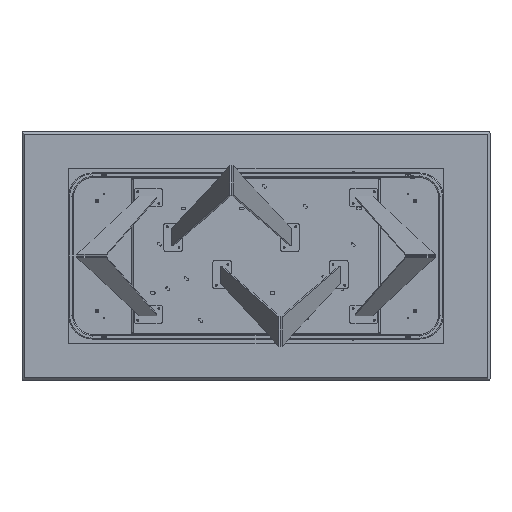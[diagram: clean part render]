
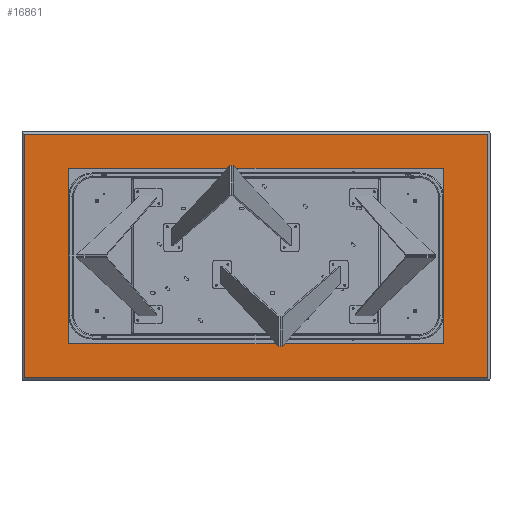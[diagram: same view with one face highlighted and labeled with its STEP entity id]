
A CAD part, front view. The second image highlights one B-rep face of the part: STEP entity #16861.
In plain terms, the highlighted planar face has unit normal (0, -1, 0).
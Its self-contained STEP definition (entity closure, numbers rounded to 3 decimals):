
#77 = ORIENTED_EDGE ( 'NONE', *, *, #21493, .F. ) ;
#211 = CARTESIAN_POINT ( 'NONE',  ( -990., 0., 520. ) ) ;
#218 = CARTESIAN_POINT ( 'NONE',  ( 680., 0., 237.5 ) ) ;
#228 = AXIS2_PLACEMENT_3D ( 'NONE', #14906, #22423, #12786 ) ;
#386 = EDGE_CURVE ( 'NONE', #17537, #6944, #11609, .T. ) ;
#611 = FACE_BOUND ( 'NONE', #22851, .T. ) ;
#633 = CIRCLE ( 'NONE', #228, 2.5 ) ;
#788 = VERTEX_POINT ( 'NONE', #7950 ) ;
#875 = LINE ( 'NONE', #14186, #2579 ) ;
#911 = DIRECTION ( 'NONE',  ( 0., 0., -1. ) ) ;
#914 = CARTESIAN_POINT ( 'NONE',  ( 680., 0., -235. ) ) ;
#1272 = EDGE_CURVE ( 'NONE', #788, #15801, #18597, .T. ) ;
#1342 = CARTESIAN_POINT ( 'NONE',  ( 680., 0., 235. ) ) ;
#2274 = DIRECTION ( 'NONE',  ( 0., -1., 0. ) ) ;
#2424 = CARTESIAN_POINT ( 'NONE',  ( -680., 0., -237.5 ) ) ;
#2579 = VECTOR ( 'NONE', #18003, 1000. ) ;
#3076 = ORIENTED_EDGE ( 'NONE', *, *, #9154, .F. ) ;
#3166 = VERTEX_POINT ( 'NONE', #21472 ) ;
#3354 = VECTOR ( 'NONE', #16453, 1000. ) ;
#3395 = ORIENTED_EDGE ( 'NONE', *, *, #5428, .T. ) ;
#3600 = CARTESIAN_POINT ( 'NONE',  ( -680., 0., 237.5 ) ) ;
#3858 = ORIENTED_EDGE ( 'NONE', *, *, #23201, .F. ) ;
#4009 = EDGE_LOOP ( 'NONE', ( #6497, #13950 ) ) ;
#4050 = ORIENTED_EDGE ( 'NONE', *, *, #1272, .F. ) ;
#4179 = VERTEX_POINT ( 'NONE', #218 ) ;
#4504 = ORIENTED_EDGE ( 'NONE', *, *, #19490, .F. ) ;
#4558 = CARTESIAN_POINT ( 'NONE',  ( 680., 0., 235. ) ) ;
#4736 = DIRECTION ( 'NONE',  ( 0., 0., -1. ) ) ;
#5346 = LINE ( 'NONE', #18430, #3354 ) ;
#5428 = EDGE_CURVE ( 'NONE', #6944, #5477, #5346, .T. ) ;
#5477 = VERTEX_POINT ( 'NONE', #17072 ) ;
#5919 = FACE_BOUND ( 'NONE', #15750, .T. ) ;
#6208 = CARTESIAN_POINT ( 'NONE',  ( -680., 0., -235. ) ) ;
#6271 = CIRCLE ( 'NONE', #14157, 2.5 ) ;
#6497 = ORIENTED_EDGE ( 'NONE', *, *, #19813, .F. ) ;
#6944 = VERTEX_POINT ( 'NONE', #211 ) ;
#7528 = AXIS2_PLACEMENT_3D ( 'NONE', #15653, #15780, #15417 ) ;
#7719 = ORIENTED_EDGE ( 'NONE', *, *, #18179, .T. ) ;
#7950 = CARTESIAN_POINT ( 'NONE',  ( -680., 0., -232.5 ) ) ;
#8104 = FACE_OUTER_BOUND ( 'NONE', #13244, .T. ) ;
#8845 = AXIS2_PLACEMENT_3D ( 'NONE', #12638, #18453, #10791 ) ;
#9154 = EDGE_CURVE ( 'NONE', #20914, #12383, #6271, .T. ) ;
#9319 = VERTEX_POINT ( 'NONE', #3600 ) ;
#9564 = DIRECTION ( 'NONE',  ( 0., -1., 0. ) ) ;
#9717 = PLANE ( 'NONE',  #7528 ) ;
#10084 = FACE_BOUND ( 'NONE', #4009, .T. ) ;
#10333 = DIRECTION ( 'NONE',  ( 0., 0., -1. ) ) ;
#10489 = VERTEX_POINT ( 'NONE', #18191 ) ;
#10791 = DIRECTION ( 'NONE',  ( 0., 0., -1. ) ) ;
#10898 = ORIENTED_EDGE ( 'NONE', *, *, #18414, .F. ) ;
#11048 = CARTESIAN_POINT ( 'NONE',  ( -680., 0., 232.5 ) ) ;
#11429 = DIRECTION ( 'NONE',  ( 0., 0., -1. ) ) ;
#11609 = LINE ( 'NONE', #17425, #20374 ) ;
#11823 = DIRECTION ( 'NONE',  ( 0., -1., 0. ) ) ;
#12383 = VERTEX_POINT ( 'NONE', #23459 ) ;
#12638 = CARTESIAN_POINT ( 'NONE',  ( -680., 0., -235. ) ) ;
#12657 = DIRECTION ( 'NONE',  ( 0., -1., 0. ) ) ;
#12707 = DIRECTION ( 'NONE',  ( 1., 0., 0. ) ) ;
#12786 = DIRECTION ( 'NONE',  ( 0., 0., -1. ) ) ;
#13091 = AXIS2_PLACEMENT_3D ( 'NONE', #22287, #18980, #11429 ) ;
#13221 = DIRECTION ( 'NONE',  ( -1., 0., 0. ) ) ;
#13244 = EDGE_LOOP ( 'NONE', ( #3395, #7719, #22227, #21794 ) ) ;
#13448 = AXIS2_PLACEMENT_3D ( 'NONE', #20311, #9564, #23273 ) ;
#13721 = CARTESIAN_POINT ( 'NONE',  ( 680., 0., -232.5 ) ) ;
#13836 = AXIS2_PLACEMENT_3D ( 'NONE', #1342, #12657, #23774 ) ;
#13950 = ORIENTED_EDGE ( 'NONE', *, *, #17205, .F. ) ;
#14157 = AXIS2_PLACEMENT_3D ( 'NONE', #914, #15957, #4736 ) ;
#14186 = CARTESIAN_POINT ( 'NONE',  ( 990., 0., 0. ) ) ;
#14703 = LINE ( 'NONE', #21987, #24055 ) ;
#14906 = CARTESIAN_POINT ( 'NONE',  ( 680., 0., -235. ) ) ;
#15065 = AXIS2_PLACEMENT_3D ( 'NONE', #6208, #2274, #911 ) ;
#15417 = DIRECTION ( 'NONE',  ( 0., 0., 1. ) ) ;
#15653 = CARTESIAN_POINT ( 'NONE',  ( 0., 0., 0. ) ) ;
#15667 = EDGE_LOOP ( 'NONE', ( #10898, #4504 ) ) ;
#15743 = VERTEX_POINT ( 'NONE', #11048 ) ;
#15750 = EDGE_LOOP ( 'NONE', ( #3858, #3076 ) ) ;
#15780 = DIRECTION ( 'NONE',  ( 0., 1., 0. ) ) ;
#15801 = VERTEX_POINT ( 'NONE', #2424 ) ;
#15957 = DIRECTION ( 'NONE',  ( 0., -1., 0. ) ) ;
#16453 = DIRECTION ( 'NONE',  ( 0., 0., -1. ) ) ;
#16861 = ADVANCED_FACE ( 'NONE', ( #5919, #611, #10084, #23050, #8104 ), #9717, .F. ) ;
#17046 = AXIS2_PLACEMENT_3D ( 'NONE', #4558, #11823, #10333 ) ;
#17072 = CARTESIAN_POINT ( 'NONE',  ( -990., 0., -520. ) ) ;
#17205 = EDGE_CURVE ( 'NONE', #9319, #15743, #22856, .T. ) ;
#17425 = CARTESIAN_POINT ( 'NONE',  ( 0., 0., 520. ) ) ;
#17537 = VERTEX_POINT ( 'NONE', #21781 ) ;
#18003 = DIRECTION ( 'NONE',  ( 0., 0., 1. ) ) ;
#18179 = EDGE_CURVE ( 'NONE', #5477, #3166, #14703, .T. ) ;
#18191 = CARTESIAN_POINT ( 'NONE',  ( 680., 0., 232.5 ) ) ;
#18414 = EDGE_CURVE ( 'NONE', #10489, #4179, #19349, .T. ) ;
#18430 = CARTESIAN_POINT ( 'NONE',  ( -990., 0., 0. ) ) ;
#18453 = DIRECTION ( 'NONE',  ( 0., -1., 0. ) ) ;
#18597 = CIRCLE ( 'NONE', #15065, 2.5 ) ;
#18980 = DIRECTION ( 'NONE',  ( 0., -1., 0. ) ) ;
#19349 = CIRCLE ( 'NONE', #13836, 2.5 ) ;
#19490 = EDGE_CURVE ( 'NONE', #4179, #10489, #19809, .T. ) ;
#19809 = CIRCLE ( 'NONE', #17046, 2.5 ) ;
#19813 = EDGE_CURVE ( 'NONE', #15743, #9319, #20588, .T. ) ;
#20311 = CARTESIAN_POINT ( 'NONE',  ( -680., 0., 235. ) ) ;
#20374 = VECTOR ( 'NONE', #13221, 1000. ) ;
#20588 = CIRCLE ( 'NONE', #13091, 2.5 ) ;
#20914 = VERTEX_POINT ( 'NONE', #13721 ) ;
#21472 = CARTESIAN_POINT ( 'NONE',  ( 990., 0., -520. ) ) ;
#21493 = EDGE_CURVE ( 'NONE', #15801, #788, #22232, .T. ) ;
#21781 = CARTESIAN_POINT ( 'NONE',  ( 990., 0., 520. ) ) ;
#21794 = ORIENTED_EDGE ( 'NONE', *, *, #386, .T. ) ;
#21987 = CARTESIAN_POINT ( 'NONE',  ( 0., 0., -520. ) ) ;
#22227 = ORIENTED_EDGE ( 'NONE', *, *, #22948, .T. ) ;
#22232 = CIRCLE ( 'NONE', #8845, 2.5 ) ;
#22287 = CARTESIAN_POINT ( 'NONE',  ( -680., 0., 235. ) ) ;
#22423 = DIRECTION ( 'NONE',  ( 0., -1., 0. ) ) ;
#22851 = EDGE_LOOP ( 'NONE', ( #77, #4050 ) ) ;
#22856 = CIRCLE ( 'NONE', #13448, 2.5 ) ;
#22948 = EDGE_CURVE ( 'NONE', #3166, #17537, #875, .T. ) ;
#23050 = FACE_BOUND ( 'NONE', #15667, .T. ) ;
#23201 = EDGE_CURVE ( 'NONE', #12383, #20914, #633, .T. ) ;
#23273 = DIRECTION ( 'NONE',  ( 0., 0., -1. ) ) ;
#23459 = CARTESIAN_POINT ( 'NONE',  ( 680., 0., -237.5 ) ) ;
#23774 = DIRECTION ( 'NONE',  ( 0., 0., -1. ) ) ;
#24055 = VECTOR ( 'NONE', #12707, 1000. ) ;
